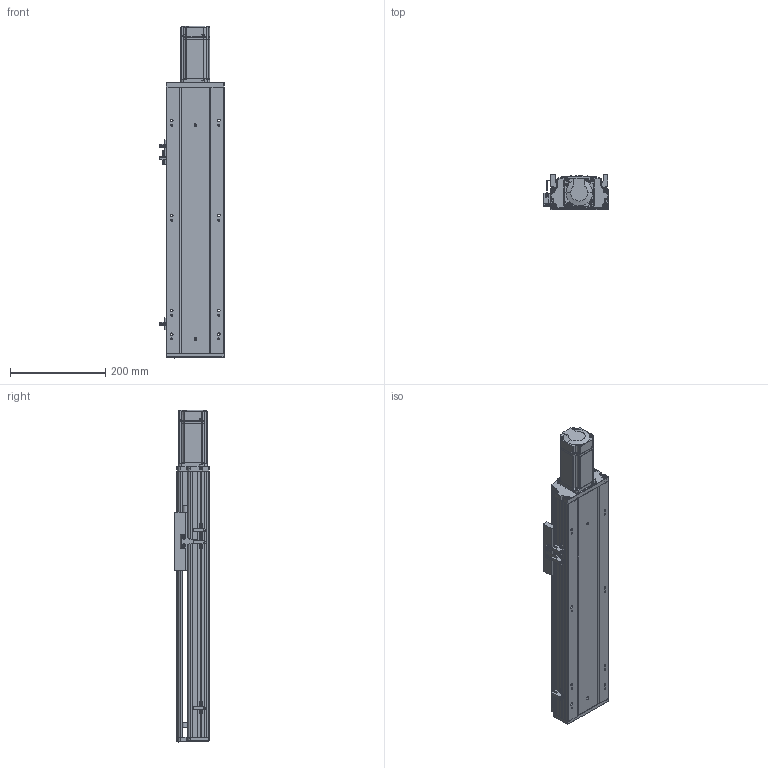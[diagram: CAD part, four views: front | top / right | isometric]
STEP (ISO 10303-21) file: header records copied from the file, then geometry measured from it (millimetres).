
FILE_DESCRIPTION (( 'STEP AP203' ), '1' );
FILE_NAME ('RY120Q-L1610-500-MK.SLDASM_0300.step', '2021-05-19T01:44:29', ( '盈信电脑' ), ( '东莞市道滘镇水果街19号' ), 'SwSTEP 2.0', 'SolidWorks 2016', '' );
FILE_SCHEMA (( 'CONFIG_CONTROL_DESIGN' ));
Length unit declared in the file: millimetre
Products named in the file (14): 侂狟400W侜督萇儂; 15; RY120Q-L1610-500-MK.SLDASM_0300; RY120-500-MK倰第菁釱_0300; RY120-500-MK倰第奻裔啣_0300; 鞠褒坶踡蹟譫BK12 ; RY120萇儂釱FK12; 覜茼ん672; 滅袉蝶18-15; RY120外置感应片(140共用）; RY120QGB-1.8; RY120铝滑块16丝杆（FK12）; 滅袉蝶18-10; RY120綴裔啣
Assembly tree (16 placements, depth 3):
  RY120Q-L1610-500-MK.SLDASM_0300
    RY120-500-MK倰第菁釱_0300
    RY120-500-MK倰第奻裔啣_0300
    侂狟400W侜督萇儂
      15
    鞠褒坶踡蹟譫BK12 
    RY120綴裔啣
    覜茼ん672  x3
    滅袉蝶18-10
    滅袉蝶18-15  x2
    RY120外置感应片(140共用）
    RY120QGB-1.8
    RY120铝滑块16丝杆（FK12）
    RY120萇儂釱FK12
Bounding box: 135.7 x 74 x 698.5 mm (x, y, z)
Volume: 2093359.9 mm3; surface area: 684558.5 mm2
Topology: 16 solids, 16 shells, 2100 faces, 5747 edges, 3676 vertices
Faces by surface type: plane 999, cylinder 787, cone 213, bspline 101
Entity records: 68529 total; most frequent: CARTESIAN_POINT 18887, ORIENTED_EDGE 10270, DIRECTION 9723, EDGE_CURVE 5135, VERTEX_POINT 3344, AXIS2_PLACEMENT_3D 3328, VECTOR 3067, LINE 3067
